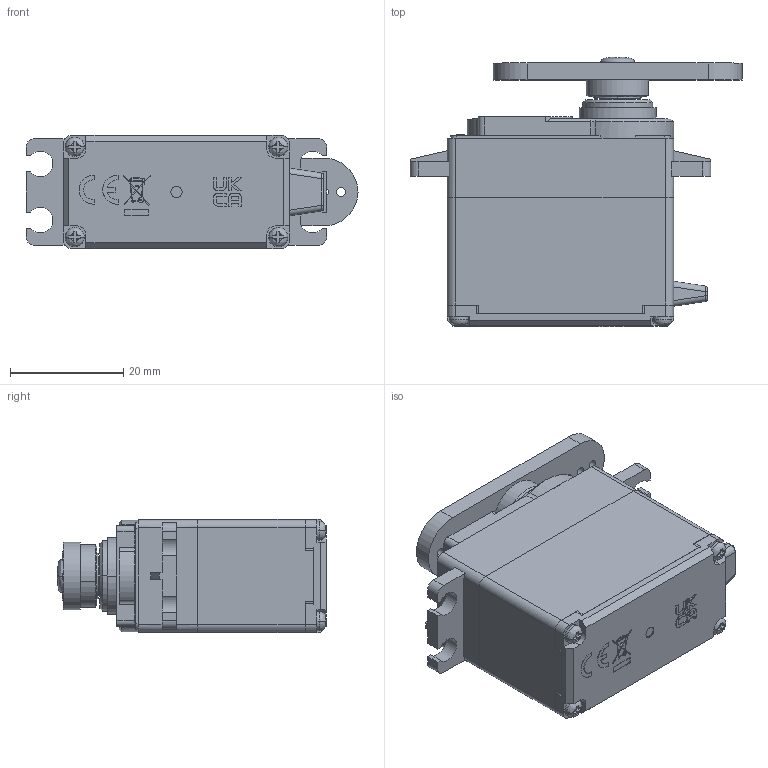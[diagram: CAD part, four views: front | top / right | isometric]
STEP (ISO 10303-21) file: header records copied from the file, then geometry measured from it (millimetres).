
FILE_DESCRIPTION((''),'2;1');
FILE_NAME('D956WP_ASSY_ASM_1_ASM','2023-11-02T',('sangmin.kim'),(''),'CREO PARAMETRIC BY PTC INC, 2016050','CREO PARAMETRIC BY PTC INC, 2016050','');
FILE_SCHEMA(('CONFIG_CONTROL_DESIGN'));
Products named in the file (13): D954T_PBT30_120101010139_1; D954HT_AL6061_120101060003_1; D954L_PBT30_120101030130_1; D956SG4F-P_120212000827_1; D956SG4F-P_120212000827_ASM_1_ASM; CPH_T2XL28_SUS_120202000181_1; WP_3P_BUSHING_120105020030_1; HD-IM25_PA66_120217000084; 120208000024_11X8X3_METAL_RING; TW_6_5X3_2_SUS_120204000048; CBH_M3XL5_SUS_120201000113; PLATE_D956WP_120104010246; D956WP_ASSY_ASM_1_ASM
Assembly tree (15 placements, depth 3):
  D956WP_ASSY_ASM_1_ASM
    D954T_PBT30_120101010139_1
    D954HT_AL6061_120101060003_1
    D954L_PBT30_120101030130_1
    D956SG4F-P_120212000827_ASM_1_ASM
      D956SG4F-P_120212000827_1
    CPH_T2XL28_SUS_120202000181_1  x4
    WP_3P_BUSHING_120105020030_1
    HD-IM25_PA66_120217000084
    120208000024_11X8X3_METAL_RING
    TW_6_5X3_2_SUS_120204000048
    CBH_M3XL5_SUS_120201000113
    PLATE_D956WP_120104010246
Bounding box: 58.7 x 47.6 x 20 mm (x, y, z)
Volume: 31185.9 mm3; surface area: 14060.4 mm2
Topology: 14 solids, 18 shells, 3112 faces, 8790 edges, 5861 vertices
Faces by surface type: plane 2170, cylinder 419, extrusion 259, cone 129, torus 75, bspline 58, sphere 2
Entity records: 124362 total; most frequent: CARTESIAN_POINT 24845, ORIENTED_EDGE 16520, DIRECTION 13929, EDGE_CURVE 8260, PRESENTATION_STYLE_ASSIGNMENT 7127, STYLED_ITEM 7081, VECTOR 6577, CURVE_STYLE 6510
